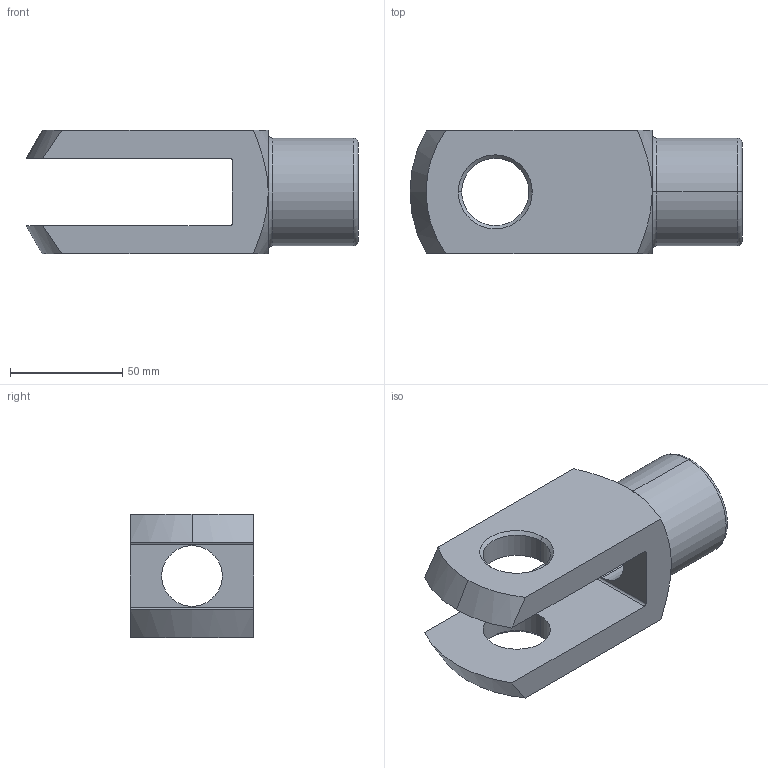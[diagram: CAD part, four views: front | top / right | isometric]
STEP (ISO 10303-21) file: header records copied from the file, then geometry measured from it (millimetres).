
FILE_DESCRIPTION (( 'STEP AP203' ), '1' );
FILE_NAME ('65636.W0305.step', '2014-01-17T13:15:42', ( 'User' ), ( '' ), 'SwSTEP 2.0', 'SolidWorks 2009', '' );
FILE_SCHEMA (( 'CONFIG_CONTROL_DESIGN' ));
Length unit declared in the file: millimetre
Products named in the file (1): 65636.W0305
Bounding box: 148 x 55 x 55 mm (x, y, z)
Volume: 187513.5 mm3; surface area: 41004.1 mm2
Topology: 1 solids, 1 shells, 36 faces, 85 edges, 52 vertices
Faces by surface type: cone 13, cylinder 10, plane 9, torus 4
Entity records: 1222 total; most frequent: CARTESIAN_POINT 290, DIRECTION 191, ORIENTED_EDGE 170, EDGE_CURVE 85, AXIS2_PLACEMENT_3D 81, VERTEX_POINT 52, CIRCLE 44, EDGE_LOOP 43
